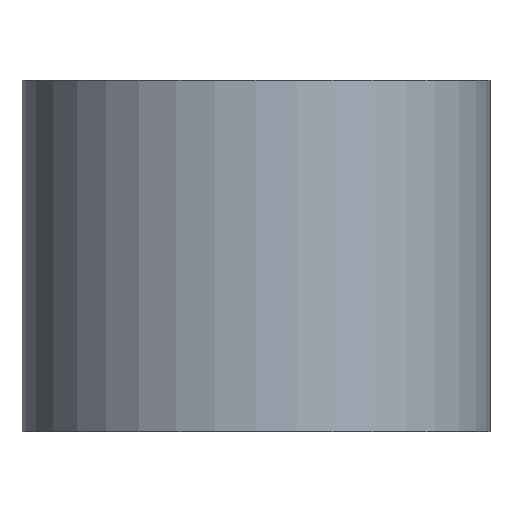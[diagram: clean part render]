
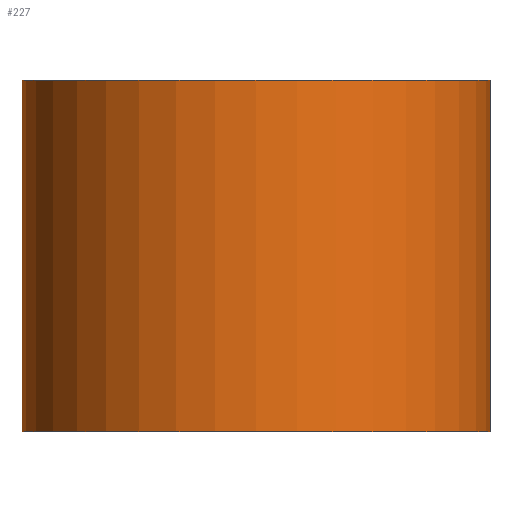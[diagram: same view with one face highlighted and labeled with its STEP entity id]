
A CAD part, front view. The second image highlights one B-rep face of the part: STEP entity #227.
In plain terms, the highlighted cylindrical face has radius 10 mm (diameter 20 mm), a partial arc.
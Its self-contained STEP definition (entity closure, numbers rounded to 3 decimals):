
#10 = DIRECTION ( 'NONE',  ( 0., 0., -1. ) ) ;
#26 = CIRCLE ( 'NONE', #257, 10. ) ;
#27 = CARTESIAN_POINT ( 'NONE',  ( 0., 0., 0. ) ) ;
#28 = DIRECTION ( 'NONE',  ( 0., 0., -1. ) ) ;
#30 = DIRECTION ( 'NONE',  ( -1., 0., 0. ) ) ;
#43 = VERTEX_POINT ( 'NONE', #103 ) ;
#55 = CARTESIAN_POINT ( 'NONE',  ( 0., 0., 15. ) ) ;
#57 = CARTESIAN_POINT ( 'NONE',  ( 10., 0., 0. ) ) ;
#74 = DIRECTION ( 'NONE',  ( -1., 0., 0. ) ) ;
#75 = DIRECTION ( 'NONE',  ( -1., 0., 0. ) ) ;
#82 = ORIENTED_EDGE ( 'NONE', *, *, #185, .T. ) ;
#90 = VERTEX_POINT ( 'NONE', #293 ) ;
#96 = CIRCLE ( 'NONE', #208, 10. ) ;
#97 = ORIENTED_EDGE ( 'NONE', *, *, #127, .F. ) ;
#99 = CARTESIAN_POINT ( 'NONE',  ( -10., 0., 0. ) ) ;
#102 = AXIS2_PLACEMENT_3D ( 'NONE', #27, #216, #74 ) ;
#103 = CARTESIAN_POINT ( 'NONE',  ( 10., 0., 15. ) ) ;
#105 = EDGE_CURVE ( 'NONE', #164, #242, #222, .T. ) ;
#117 = VECTOR ( 'NONE', #218, 1000. ) ;
#126 = DIRECTION ( 'NONE',  ( 0., 0., -1. ) ) ;
#127 = EDGE_CURVE ( 'NONE', #90, #242, #96, .T. ) ;
#143 = FACE_OUTER_BOUND ( 'NONE', #282, .T. ) ;
#152 = LINE ( 'NONE', #57, #117 ) ;
#160 = ORIENTED_EDGE ( 'NONE', *, *, #176, .F. ) ;
#164 = VERTEX_POINT ( 'NONE', #274 ) ;
#173 = CARTESIAN_POINT ( 'NONE',  ( -10., 0., 0. ) ) ;
#176 = EDGE_CURVE ( 'NONE', #43, #90, #152, .T. ) ;
#185 = EDGE_CURVE ( 'NONE', #43, #164, #26, .T. ) ;
#200 = CARTESIAN_POINT ( 'NONE',  ( 0., 0., 0. ) ) ;
#208 = AXIS2_PLACEMENT_3D ( 'NONE', #200, #126, #75 ) ;
#216 = DIRECTION ( 'NONE',  ( 0., 0., -1. ) ) ;
#218 = DIRECTION ( 'NONE',  ( 0., 0., -1. ) ) ;
#220 = ORIENTED_EDGE ( 'NONE', *, *, #105, .T. ) ;
#222 = LINE ( 'NONE', #99, #292 ) ;
#227 = ADVANCED_FACE ( 'NONE', ( #143 ), #246, .T. ) ;
#242 = VERTEX_POINT ( 'NONE', #173 ) ;
#246 = CYLINDRICAL_SURFACE ( 'NONE', #102, 10. ) ;
#257 = AXIS2_PLACEMENT_3D ( 'NONE', #55, #28, #30 ) ;
#274 = CARTESIAN_POINT ( 'NONE',  ( -10., 0., 15. ) ) ;
#282 = EDGE_LOOP ( 'NONE', ( #160, #82, #220, #97 ) ) ;
#292 = VECTOR ( 'NONE', #10, 1000. ) ;
#293 = CARTESIAN_POINT ( 'NONE',  ( 10., 0., 0. ) ) ;
